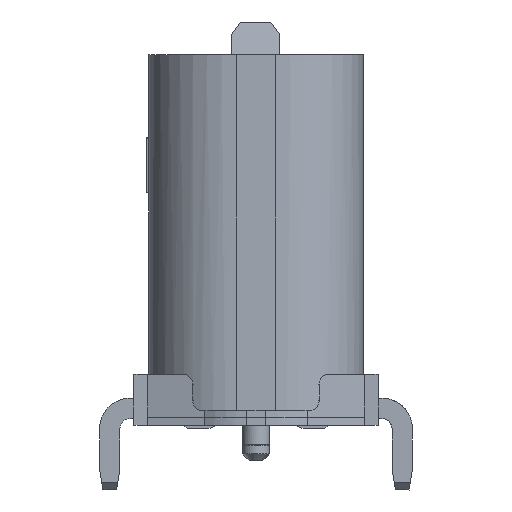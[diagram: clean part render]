
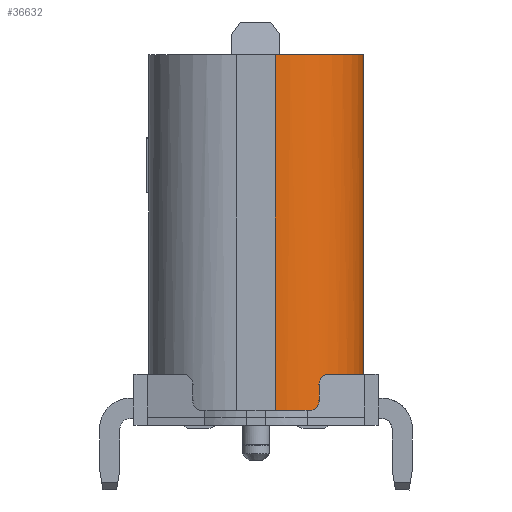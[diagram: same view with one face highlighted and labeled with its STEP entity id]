
A CAD part, left-side view. The second image highlights one B-rep face of the part: STEP entity #36632.
In plain terms, the highlighted cylindrical face has radius 1.3 mm (diameter 2.6 mm), a partial arc.
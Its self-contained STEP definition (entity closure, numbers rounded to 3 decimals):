
#107 = ORIENTED_EDGE ( 'NONE', *, *, #9486, .T. ) ;
#1204 = VERTEX_POINT ( 'NONE', #3699 ) ;
#1433 = EDGE_CURVE ( 'NONE', #46049, #25143, #59936, .T. ) ;
#3152 = FACE_OUTER_BOUND ( 'NONE', #59569, .T. ) ;
#3417 = CARTESIAN_POINT ( 'NONE',  ( -65.696, -2.981, -47.323 ) ) ;
#3699 = CARTESIAN_POINT ( 'NONE',  ( -65.696, -2.981, -47.093 ) ) ;
#3957 = DIRECTION ( 'NONE',  ( 0., -1., 0. ) ) ;
#6445 = CARTESIAN_POINT ( 'NONE',  ( -65.613, -3.107, -46.943 ) ) ;
#6724 = DIRECTION ( 'NONE',  ( 0., 0., -1. ) ) ;
#7566 = AXIS2_PLACEMENT_3D ( 'NONE', #58044, #38593, #56817 ) ;
#8123 = VECTOR ( 'NONE', #6724, 1000. ) ;
#8232 = VECTOR ( 'NONE', #14399, 1000. ) ;
#9486 = EDGE_CURVE ( 'NONE', #35165, #54727, #45832, .T. ) ;
#10114 = EDGE_CURVE ( 'NONE', #54727, #21679, #20283, .T. ) ;
#10183 = EDGE_CURVE ( 'NONE', #43798, #35165, #11918, .T. ) ;
#10999 = CARTESIAN_POINT ( 'NONE',  ( -65.747, -2.885, -47.473 ) ) ;
#11030 = CARTESIAN_POINT ( 'NONE',  ( -65.696, -2.982, -47.051 ) ) ;
#11078 = DIRECTION ( 'NONE',  ( -1., 0., 0. ) ) ;
#11918 = LINE ( 'NONE', #35268, #8123 ) ;
#13852 = DIRECTION ( 'NONE',  ( 0., 0., 1. ) ) ;
#14314 = CIRCLE ( 'NONE', #48243, 1.3 ) ;
#14399 = DIRECTION ( 'NONE',  ( 0., 0., 1. ) ) ;
#15872 = CARTESIAN_POINT ( 'NONE',  ( -65.731, -2.917, -47.458 ) ) ;
#16059 = LINE ( 'NONE', #17262, #40188 ) ;
#16865 = DIRECTION ( 'NONE',  ( 0., 0., -1. ) ) ;
#17262 = CARTESIAN_POINT ( 'NONE',  ( -65.696, -2.981, -31.712 ) ) ;
#17325 = AXIS2_PLACEMENT_3D ( 'NONE', #21699, #16865, #11078 ) ;
#17932 = ORIENTED_EDGE ( 'NONE', *, *, #33688, .T. ) ;
#18853 = DIRECTION ( 'NONE',  ( 0., 0., -1. ) ) ;
#18981 = ORIENTED_EDGE ( 'NONE', *, *, #45875, .T. ) ;
#19495 = EDGE_CURVE ( 'NONE', #1204, #46049, #23389, .T. ) ;
#20283 = B_SPLINE_CURVE_WITH_KNOTS ( 'NONE', 3,
 ( #47732, #10999, #15872, #57467, #39827, #52600 ),
 .UNSPECIFIED., .F., .F.,
 ( 4, 2, 4 ),
 ( 0., 0.5, 1. ),
 .UNSPECIFIED. ) ;
#21679 = VERTEX_POINT ( 'NONE', #3417 ) ;
#21699 = CARTESIAN_POINT ( 'NONE',  ( -64.57, -2.331, -31.712 ) ) ;
#21800 = ORIENTED_EDGE ( 'NONE', *, *, #1433, .T. ) ;
#22361 = CARTESIAN_POINT ( 'NONE',  ( -64.57, -3.631, -46.943 ) ) ;
#22945 = CARTESIAN_POINT ( 'NONE',  ( -64.57, -2.331, -47.473 ) ) ;
#23389 = B_SPLINE_CURVE_WITH_KNOTS ( 'NONE', 3,
 ( #48678, #11030, #29538, #57798, #48057, #6445 ),
 .UNSPECIFIED., .F., .F.,
 ( 4, 2, 4 ),
 ( 0., 0.5, 1. ),
 .UNSPECIFIED. ) ;
#25143 = VERTEX_POINT ( 'NONE', #22361 ) ;
#29538 = CARTESIAN_POINT ( 'NONE',  ( -65.688, -2.995, -47.015 ) ) ;
#30594 = DIRECTION ( 'NONE',  ( 0., 0., 1. ) ) ;
#32203 = CARTESIAN_POINT ( 'NONE',  ( -64.57, -2.331, -42.243 ) ) ;
#33688 = EDGE_CURVE ( 'NONE', #47017, #43798, #14314, .T. ) ;
#35165 = VERTEX_POINT ( 'NONE', #44822 ) ;
#35268 = CARTESIAN_POINT ( 'NONE',  ( -65.87, -2.331, -31.712 ) ) ;
#36632 = ADVANCED_FACE ( 'NONE', ( #3152 ), #48414, .T. ) ;
#37466 = CARTESIAN_POINT ( 'NONE',  ( -64.57, -3.631, -44.618 ) ) ;
#38593 = DIRECTION ( 'NONE',  ( 0., 0., 1. ) ) ;
#38896 = CARTESIAN_POINT ( 'NONE',  ( -64.57, -3.631, -42.243 ) ) ;
#39827 = CARTESIAN_POINT ( 'NONE',  ( -65.696, -2.981, -47.365 ) ) ;
#40137 = ORIENTED_EDGE ( 'NONE', *, *, #10183, .T. ) ;
#40188 = VECTOR ( 'NONE', #30594, 1000. ) ;
#43798 = VERTEX_POINT ( 'NONE', #47773 ) ;
#44822 = CARTESIAN_POINT ( 'NONE',  ( -65.87, -2.331, -47.473 ) ) ;
#45414 = DIRECTION ( 'NONE',  ( -1., 0., 0. ) ) ;
#45832 = CIRCLE ( 'NONE', #53624, 1.3 ) ;
#45875 = EDGE_CURVE ( 'NONE', #21679, #1204, #16059, .T. ) ;
#46049 = VERTEX_POINT ( 'NONE', #55762 ) ;
#46507 = EDGE_CURVE ( 'NONE', #25143, #47017, #56594, .T. ) ;
#47017 = VERTEX_POINT ( 'NONE', #38896 ) ;
#47665 = ORIENTED_EDGE ( 'NONE', *, *, #46507, .T. ) ;
#47732 = CARTESIAN_POINT ( 'NONE',  ( -65.763, -2.847, -47.473 ) ) ;
#47773 = CARTESIAN_POINT ( 'NONE',  ( -65.87, -2.331, -42.243 ) ) ;
#48057 = CARTESIAN_POINT ( 'NONE',  ( -65.637, -3.075, -46.943 ) ) ;
#48243 = AXIS2_PLACEMENT_3D ( 'NONE', #32203, #18853, #3957 ) ;
#48414 = CYLINDRICAL_SURFACE ( 'NONE', #17325, 1.3 ) ;
#48678 = CARTESIAN_POINT ( 'NONE',  ( -65.696, -2.981, -47.093 ) ) ;
#49172 = CARTESIAN_POINT ( 'NONE',  ( -65.763, -2.847, -47.473 ) ) ;
#52600 = CARTESIAN_POINT ( 'NONE',  ( -65.696, -2.981, -47.323 ) ) ;
#53624 = AXIS2_PLACEMENT_3D ( 'NONE', #22945, #13852, #45414 ) ;
#54727 = VERTEX_POINT ( 'NONE', #49172 ) ;
#55762 = CARTESIAN_POINT ( 'NONE',  ( -65.613, -3.107, -46.943 ) ) ;
#56594 = LINE ( 'NONE', #37466, #8232 ) ;
#56817 = DIRECTION ( 'NONE',  ( -1., 0., 0. ) ) ;
#57467 = CARTESIAN_POINT ( 'NONE',  ( -65.704, -2.968, -47.4 ) ) ;
#57513 = ORIENTED_EDGE ( 'NONE', *, *, #19495, .T. ) ;
#57798 = CARTESIAN_POINT ( 'NONE',  ( -65.658, -3.043, -46.959 ) ) ;
#58044 = CARTESIAN_POINT ( 'NONE',  ( -64.57, -2.331, -46.943 ) ) ;
#59569 = EDGE_LOOP ( 'NONE', ( #47665, #17932, #40137, #107, #59935, #18981, #57513, #21800 ) ) ;
#59935 = ORIENTED_EDGE ( 'NONE', *, *, #10114, .T. ) ;
#59936 = CIRCLE ( 'NONE', #7566, 1.3 ) ;
